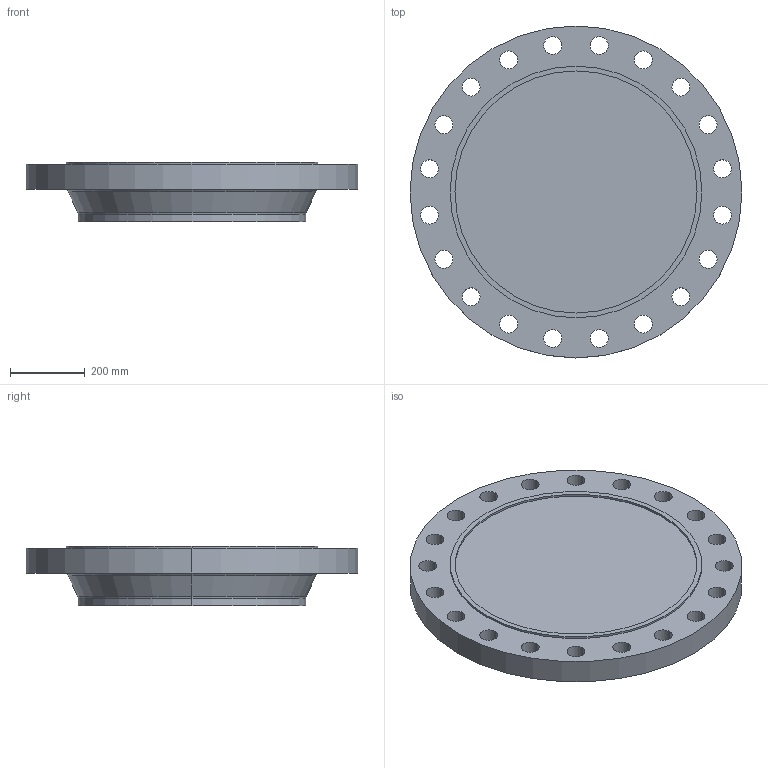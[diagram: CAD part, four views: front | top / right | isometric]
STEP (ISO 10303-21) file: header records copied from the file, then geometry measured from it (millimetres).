
FILE_DESCRIPTION (( 'STEP AP214' ), '1' );
FILE_NAME ('PN40 DN600 Type 21(ii) - Type C Face.STEP', '2018-12-29T04:38:23', ( '' ), ( '' ), 'SwSTEP 2.0', 'SolidWorks 2019', '' );
FILE_SCHEMA (( 'AUTOMOTIVE_DESIGN' ));
Length unit declared in the file: millimetre
Products named in the file (1): PN40 DN600 Type 21(ii) - Type C Face
Bounding box: 890 x 890 x 160 mm (x, y, z)
Volume: 66815470.9 mm3; surface area: 1704847.7 mm2
Topology: 1 solids, 1 shells, 59 faces, 156 edges, 102 vertices
Faces by surface type: cylinder 48, plane 5, torus 4, cone 2
Entity records: 2002 total; most frequent: DIRECTION 382, CARTESIAN_POINT 318, ORIENTED_EDGE 312, AXIS2_PLACEMENT_3D 166, EDGE_CURVE 156, CIRCLE 106, EDGE_LOOP 102, VERTEX_POINT 102
